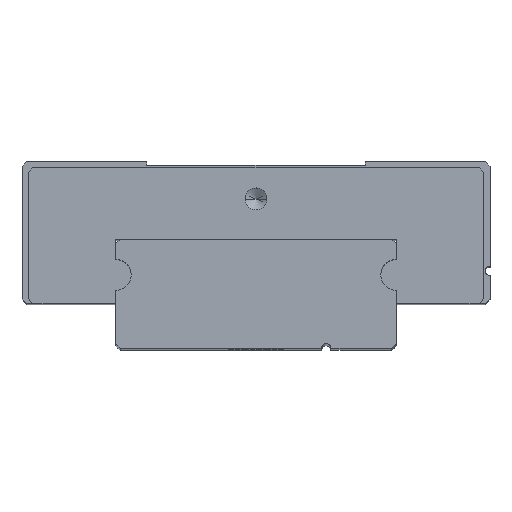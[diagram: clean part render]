
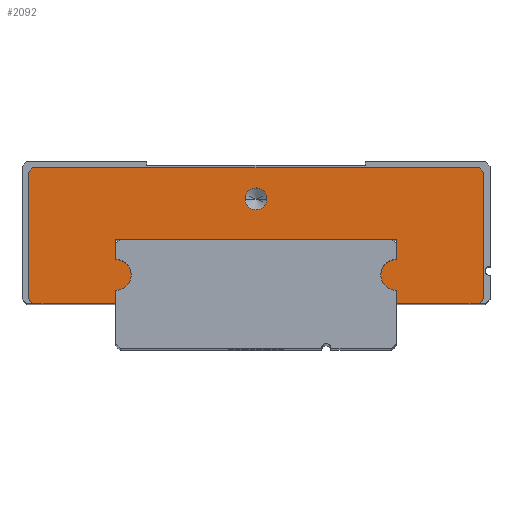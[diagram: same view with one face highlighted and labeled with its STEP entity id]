
A CAD part, top view. The second image highlights one B-rep face of the part: STEP entity #2092.
In plain terms, the highlighted planar face has unit normal (0, 0, 1).
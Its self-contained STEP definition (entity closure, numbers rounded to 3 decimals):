
#1143=CARTESIAN_POINT('',(-9.,4.7,25.35));
#1144=DIRECTION('',(0.,0.,-1.));
#1145=DIRECTION('',(0.,1.,0.));
#1146=AXIS2_PLACEMENT_3D('',#1143,#1144,#1145);
#1148=DIRECTION('',(1.,0.,0.));
#1149=VECTOR('',#1148,5.3);
#1150=CARTESIAN_POINT('',(-14.3,2.9,25.35));
#1151=LINE('',#1150,#1149);
#1152=DIRECTION('',(0.707,-0.707,0.));
#1153=VECTOR('',#1152,0.424);
#1154=CARTESIAN_POINT('',(-14.6,3.2,25.35));
#1155=LINE('',#1154,#1153);
#1156=DIRECTION('',(0.,-1.,0.));
#1157=VECTOR('',#1156,8.1);
#1158=CARTESIAN_POINT('',(-14.6,11.3,25.35));
#1159=LINE('',#1158,#1157);
#1160=DIRECTION('',(-0.707,-0.707,0.));
#1161=VECTOR('',#1160,0.424);
#1162=CARTESIAN_POINT('',(-14.3,11.6,25.35));
#1163=LINE('',#1162,#1161);
#1164=DIRECTION('',(-1.,0.,0.));
#1165=VECTOR('',#1164,28.6);
#1166=CARTESIAN_POINT('',(14.3,11.6,25.35));
#1167=LINE('',#1166,#1165);
#1168=DIRECTION('',(-0.707,0.707,0.));
#1169=VECTOR('',#1168,0.424);
#1170=CARTESIAN_POINT('',(14.6,11.3,25.35));
#1171=LINE('',#1170,#1169);
#1172=DIRECTION('',(0.707,0.707,0.));
#1173=VECTOR('',#1172,0.424);
#1174=CARTESIAN_POINT('',(14.3,2.9,25.35));
#1175=LINE('',#1174,#1173);
#1176=DIRECTION('',(1.,0.,0.));
#1177=VECTOR('',#1176,5.3);
#1178=CARTESIAN_POINT('',(9.,2.9,25.35));
#1179=LINE('',#1178,#1177);
#1180=CARTESIAN_POINT('',(9.,4.7,25.35));
#1181=DIRECTION('',(0.,0.,-1.));
#1182=DIRECTION('',(0.,-1.,0.));
#1183=AXIS2_PLACEMENT_3D('',#1180,#1181,#1182);
#1185=CARTESIAN_POINT('',(0.,9.6,25.35));
#1186=DIRECTION('',(0.,0.,-1.));
#1187=DIRECTION('',(-1.,0.,0.));
#1188=AXIS2_PLACEMENT_3D('',#1185,#1186,#1187);
#1190=CARTESIAN_POINT('',(0.,9.6,25.35));
#1191=DIRECTION('',(0.,0.,-1.));
#1192=DIRECTION('',(1.,0.,0.));
#1193=AXIS2_PLACEMENT_3D('',#1190,#1191,#1192);
#1271=DIRECTION('',(0.,-1.,0.));
#1272=VECTOR('',#1271,1.3);
#1273=CARTESIAN_POINT('',(-9.,7.,25.35));
#1274=LINE('',#1273,#1272);
#1279=DIRECTION('',(-1.,0.,0.));
#1280=VECTOR('',#1279,18.);
#1281=CARTESIAN_POINT('',(9.,7.,25.35));
#1282=LINE('',#1281,#1280);
#1287=DIRECTION('',(0.,1.,0.));
#1288=VECTOR('',#1287,1.3);
#1289=CARTESIAN_POINT('',(9.,5.7,25.35));
#1290=LINE('',#1289,#1288);
#1299=DIRECTION('',(0.,1.,0.));
#1300=VECTOR('',#1299,0.8);
#1301=CARTESIAN_POINT('',(9.,2.9,25.35));
#1302=LINE('',#1301,#1300);
#1397=DIRECTION('',(0.,-1.,0.));
#1398=VECTOR('',#1397,8.1);
#1399=CARTESIAN_POINT('',(14.6,11.3,25.35));
#1400=LINE('',#1399,#1398);
#1445=DIRECTION('',(0.,-1.,0.));
#1446=VECTOR('',#1445,0.8);
#1447=CARTESIAN_POINT('',(-9.,3.7,25.35));
#1448=LINE('',#1447,#1446);
#1831=CARTESIAN_POINT('',(9.,2.9,25.35));
#1832=CARTESIAN_POINT('',(14.3,2.9,25.35));
#1833=VERTEX_POINT('',#1831);
#1834=VERTEX_POINT('',#1832);
#1835=CARTESIAN_POINT('',(14.6,3.2,25.35));
#1836=VERTEX_POINT('',#1835);
#1837=CARTESIAN_POINT('',(14.6,11.3,25.35));
#1838=VERTEX_POINT('',#1837);
#1839=CARTESIAN_POINT('',(14.3,11.6,25.35));
#1840=VERTEX_POINT('',#1839);
#1841=CARTESIAN_POINT('',(-14.3,11.6,25.35));
#1842=VERTEX_POINT('',#1841);
#1843=CARTESIAN_POINT('',(-14.6,11.3,25.35));
#1844=VERTEX_POINT('',#1843);
#1845=CARTESIAN_POINT('',(-14.6,3.2,25.35));
#1846=VERTEX_POINT('',#1845);
#1847=CARTESIAN_POINT('',(-14.3,2.9,25.35));
#1848=VERTEX_POINT('',#1847);
#1849=CARTESIAN_POINT('',(-9.,2.9,25.35));
#1850=VERTEX_POINT('',#1849);
#1851=CARTESIAN_POINT('',(-9.,3.7,25.35));
#1852=VERTEX_POINT('',#1851);
#1853=CARTESIAN_POINT('',(-9.,7.,25.35));
#1854=CARTESIAN_POINT('',(-9.,5.7,25.35));
#1855=VERTEX_POINT('',#1853);
#1856=VERTEX_POINT('',#1854);
#1857=CARTESIAN_POINT('',(9.,7.,25.35));
#1858=VERTEX_POINT('',#1857);
#1859=CARTESIAN_POINT('',(9.,5.7,25.35));
#1860=VERTEX_POINT('',#1859);
#1861=CARTESIAN_POINT('',(9.,3.7,25.35));
#1862=VERTEX_POINT('',#1861);
#2033=CARTESIAN_POINT('',(-0.7,9.6,25.35));
#2034=VERTEX_POINT('',#2033);
#2035=CARTESIAN_POINT('',(0.7,9.6,25.35));
#2036=VERTEX_POINT('',#2035);
#2047=CARTESIAN_POINT('',(15.,5.,25.35));
#2048=DIRECTION('',(0.,0.,1.));
#2049=DIRECTION('',(1.,0.,0.));
#2050=AXIS2_PLACEMENT_3D('',#2047,#2048,#2049);
#2051=PLANE('',#2050);
#2053=ORIENTED_EDGE('',*,*,#2052,.T.);
#2055=ORIENTED_EDGE('',*,*,#2054,.T.);
#2057=ORIENTED_EDGE('',*,*,#2056,.F.);
#2059=ORIENTED_EDGE('',*,*,#2058,.F.);
#2061=ORIENTED_EDGE('',*,*,#2060,.F.);
#2063=ORIENTED_EDGE('',*,*,#2062,.F.);
#2065=ORIENTED_EDGE('',*,*,#2064,.F.);
#2067=ORIENTED_EDGE('',*,*,#2066,.F.);
#2069=ORIENTED_EDGE('',*,*,#2068,.T.);
#2071=ORIENTED_EDGE('',*,*,#2070,.F.);
#2073=ORIENTED_EDGE('',*,*,#2072,.F.);
#2075=ORIENTED_EDGE('',*,*,#2074,.T.);
#2077=ORIENTED_EDGE('',*,*,#2076,.T.);
#2079=ORIENTED_EDGE('',*,*,#2078,.T.);
#2081=ORIENTED_EDGE('',*,*,#2080,.T.);
#2083=ORIENTED_EDGE('',*,*,#2082,.T.);
#2084=EDGE_LOOP('',(#2053,#2055,#2057,#2059,#2061,#2063,#2065,#2067,#2069,#2071,
#2073,#2075,#2077,#2079,#2081,#2083));
#2085=FACE_OUTER_BOUND('',#2084,.F.);
#2087=ORIENTED_EDGE('',*,*,#2086,.F.);
#2089=ORIENTED_EDGE('',*,*,#2088,.F.);
#2090=EDGE_LOOP('',(#2087,#2089));
#2091=FACE_BOUND('',#2090,.F.);
#2092=ADVANCED_FACE('',(#2085,#2091),#2051,.T.);
#1147=CIRCLE('',#1146,1.);
#1184=CIRCLE('',#1183,1.);
#1189=CIRCLE('',#1188,0.7);
#1194=CIRCLE('',#1193,0.7);
#2052=EDGE_CURVE('',#1856,#1852,#1147,.T.);
#2054=EDGE_CURVE('',#1852,#1850,#1448,.T.);
#2056=EDGE_CURVE('',#1848,#1850,#1151,.T.);
#2058=EDGE_CURVE('',#1846,#1848,#1155,.T.);
#2060=EDGE_CURVE('',#1844,#1846,#1159,.T.);
#2062=EDGE_CURVE('',#1842,#1844,#1163,.T.);
#2064=EDGE_CURVE('',#1840,#1842,#1167,.T.);
#2066=EDGE_CURVE('',#1838,#1840,#1171,.T.);
#2068=EDGE_CURVE('',#1838,#1836,#1400,.T.);
#2070=EDGE_CURVE('',#1834,#1836,#1175,.T.);
#2072=EDGE_CURVE('',#1833,#1834,#1179,.T.);
#2074=EDGE_CURVE('',#1833,#1862,#1302,.T.);
#2076=EDGE_CURVE('',#1862,#1860,#1184,.T.);
#2078=EDGE_CURVE('',#1860,#1858,#1290,.T.);
#2080=EDGE_CURVE('',#1858,#1855,#1282,.T.);
#2082=EDGE_CURVE('',#1855,#1856,#1274,.T.);
#2086=EDGE_CURVE('',#2034,#2036,#1189,.T.);
#2088=EDGE_CURVE('',#2036,#2034,#1194,.T.);
